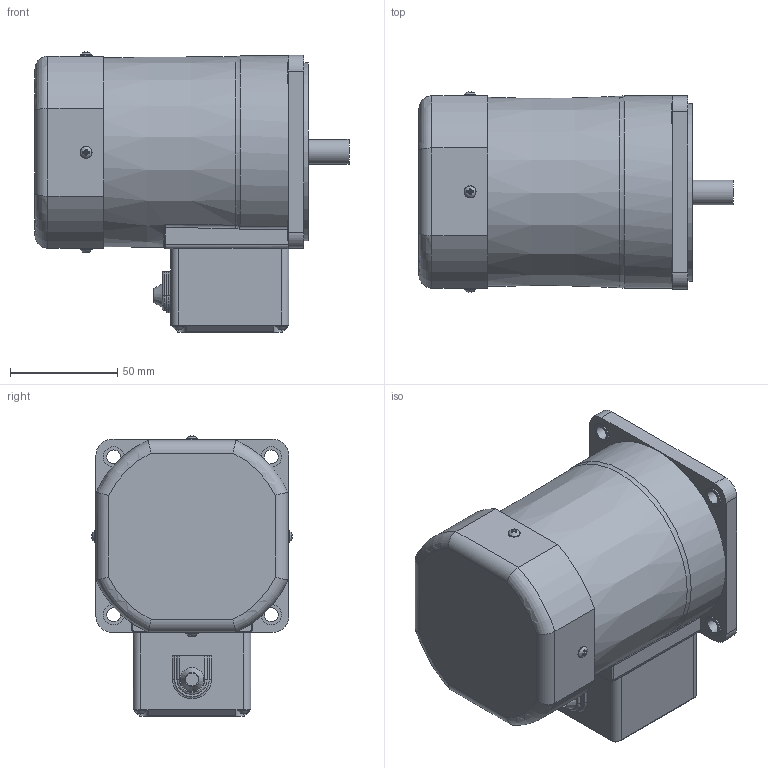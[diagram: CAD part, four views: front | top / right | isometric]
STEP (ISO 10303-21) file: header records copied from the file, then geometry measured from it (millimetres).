
FILE_DESCRIPTION((''),'2;1');
FILE_NAME('D:\STP파일\60W MOTOR\T1 BOX TYPE\S9I60G-T1.stp','2013-05-20T18:11:05',('leebh'),(''),'Autodesk Inventor 2011','Autodesk Inventor 2011','');
FILE_SCHEMA(('AUTOMOTIVE_DESIGN { 1 0 10303 214 1 1 1 1 }'));
Length unit declared in the file: millimetre
Products named in the file (1): 부품1
Bounding box: 146.41 x 93.49 x 130.55 mm (x, y, z)
Volume: 943121 mm3; surface area: 67075 mm2
Topology: 1 solids, 6 shells, 324 faces, 809 edges, 515 vertices
Faces by surface type: plane 187, cylinder 77, torus 27, bspline 26, cone 7
Full cylindrical faces by diameter (mm): 3 x4, 3.5 x4, 5.6 x8, 6.5 x4, 8 x1, 9.5 x4, 11.5 x1, 40 x1, 83 x1
Entity records: 10435 total; most frequent: CARTESIAN_POINT 3024, ORIENTED_EDGE 1472, DIRECTION 1403, EDGE_CURVE 736, AXIS2_PLACEMENT_3D 507, VERTEX_POINT 504, EDGE_LOOP 418, VECTOR 389
